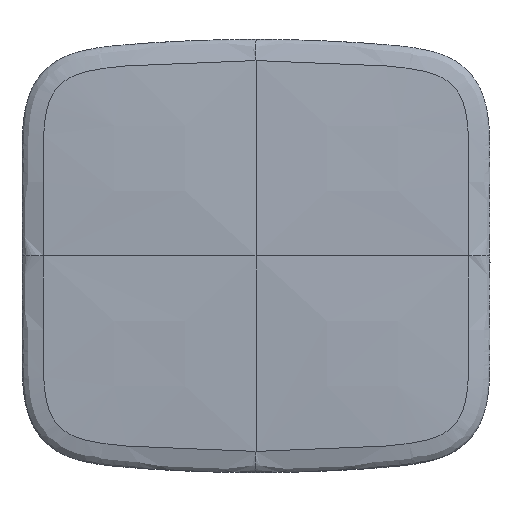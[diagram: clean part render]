
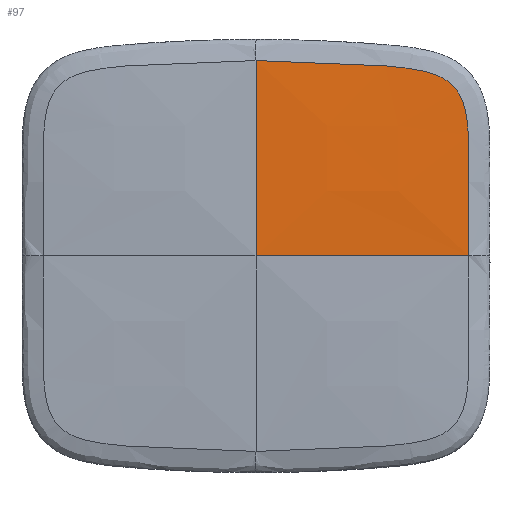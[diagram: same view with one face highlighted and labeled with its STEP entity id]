
A CAD part, top view. The second image highlights one B-rep face of the part: STEP entity #97.
In plain terms, the highlighted free-form (B-spline) face has degree [3, 3] with [4, 4] control points.
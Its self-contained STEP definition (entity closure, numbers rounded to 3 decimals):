
#97=ADVANCED_FACE('',(#179),#1252,.T.);
#179=FACE_OUTER_BOUND('',#261,.T.);
#261=EDGE_LOOP('',(#363,#364,#365));
#363=ORIENTED_EDGE('',*,*,#729,.F.);
#364=ORIENTED_EDGE('',*,*,#712,.F.);
#365=ORIENTED_EDGE('',*,*,#730,.F.);
#712=EDGE_CURVE('',#1084,#1082,#912,.T.);
#729=EDGE_CURVE('',#1082,#1093,#929,.T.);
#730=EDGE_CURVE('',#1093,#1084,#930,.T.);
#912=B_SPLINE_CURVE_WITH_KNOTS('',3,(#2740,#2741,#2742,#2743),
 .UNSPECIFIED.,.F.,.F.,(4,4),(-515.,-270.),
 .UNSPECIFIED.);
#929=B_SPLINE_CURVE_WITH_KNOTS('',3,(#2921,#2922,#2923,#2924),
 .UNSPECIFIED.,.F.,.F.,(4,4),(-250.,-25.),.UNSPECIFIED.);
#930=B_SPLINE_CURVE_WITH_KNOTS('',3,(#2925,#2926,#2927,#2928,#2929,#2930,
#2931,#2932,#2933,#2934,#2935,#2936,#2937,#2938,#2939,#2940,#2941,#2942,
#2943,#2944,#2945,#2946,#2947,#2948,#2949,#2950),.UNSPECIFIED.,.F.,.F.,
(4,1,1,1,2,1,1,1,2,2,2,1,1,1,2,1,1,1,4),(0.,135.824,149.847,
163.871,177.894,197.119,205.94,214.76,
223.581,241.222,258.863,267.683,276.504,
285.324,308.167,323.999,339.831,355.662,
449.839),.UNSPECIFIED.);
#1082=VERTEX_POINT('',#2722);
#1084=VERTEX_POINT('',#2724);
#1093=VERTEX_POINT('',#2733);
#1252=B_SPLINE_SURFACE_WITH_KNOTS('',3,3,((#2096,#2097,#2098,#2099),(#2100,
#2101,#2102,#2103),(#2104,#2105,#2106,#2107),(#2108,#2109,#2110,#2111)),
 .UNSPECIFIED.,.F.,.F.,.F.,(4,4),(4,4),(0.,250.),(270.,540.),
 .UNSPECIFIED.);
#2096=CARTESIAN_POINT('',(0.,250.,386.));
#2097=CARTESIAN_POINT('',(90.,250.,386.));
#2098=CARTESIAN_POINT('',(180.,250.,386.));
#2099=CARTESIAN_POINT('',(270.,250.,386.));
#2100=CARTESIAN_POINT('',(0.,166.667,393.));
#2101=CARTESIAN_POINT('',(90.,166.667,393.));
#2102=CARTESIAN_POINT('',(180.,166.667,393.));
#2103=CARTESIAN_POINT('',(270.,166.667,386.));
#2104=CARTESIAN_POINT('',(0.,83.333,395.));
#2105=CARTESIAN_POINT('',(90.,83.333,395.));
#2106=CARTESIAN_POINT('',(180.,83.333,393.));
#2107=CARTESIAN_POINT('',(270.,83.333,386.));
#2108=CARTESIAN_POINT('',(0.,0.,395.));
#2109=CARTESIAN_POINT('',(90.,0.,395.));
#2110=CARTESIAN_POINT('',(180.,0.,393.));
#2111=CARTESIAN_POINT('',(270.,0.,386.));
#2722=CARTESIAN_POINT('',(0.,0.,395.));
#2724=CARTESIAN_POINT('',(245.,0.,387.818));
#2733=CARTESIAN_POINT('',(0.,225.,387.953));
#2740=CARTESIAN_POINT('',(245.,0.,387.818));
#2741=CARTESIAN_POINT('',(163.333,0.,393.353));
#2742=CARTESIAN_POINT('',(81.667,0.,395.));
#2743=CARTESIAN_POINT('',(0.,0.,395.));
#2921=CARTESIAN_POINT('',(0.,0.,395.));
#2922=CARTESIAN_POINT('',(0.,75.,395.));
#2923=CARTESIAN_POINT('',(0.,150.,393.38));
#2924=CARTESIAN_POINT('',(0.,225.,387.953));
#2925=CARTESIAN_POINT('',(0.,225.,387.953));
#2926=CARTESIAN_POINT('',(45.021,225.001,387.951));
#2927=CARTESIAN_POINT('',(94.54,223.144,388.099));
#2928=CARTESIAN_POINT('',(148.87,218.889,387.957));
#2929=CARTESIAN_POINT('',(162.023,217.732,387.899));
#2930=CARTESIAN_POINT('',(170.924,216.727,387.852));
#2931=CARTESIAN_POINT('',(181.41,215.254,387.794));
#2932=CARTESIAN_POINT('',(190.081,213.768,387.744));
#2933=CARTESIAN_POINT('',(201.748,210.507,387.67));
#2934=CARTESIAN_POINT('',(208.352,208.088,387.626));
#2935=CARTESIAN_POINT('',(212.907,205.954,387.594));
#2936=CARTESIAN_POINT('',(219.369,202.416,387.548));
#2937=CARTESIAN_POINT('',(223.419,199.507,387.517));
#2938=CARTESIAN_POINT('',(230.316,192.465,387.467));
#2939=CARTESIAN_POINT('',(233.147,188.354,387.449));
#2940=CARTESIAN_POINT('',(236.439,181.76,387.433));
#2941=CARTESIAN_POINT('',(238.372,177.118,387.426));
#2942=CARTESIAN_POINT('',(240.452,170.391,387.424));
#2943=CARTESIAN_POINT('',(243.235,157.41,387.44));
#2944=CARTESIAN_POINT('',(244.094,147.49,387.474));
#2945=CARTESIAN_POINT('',(244.749,135.189,387.527));
#2946=CARTESIAN_POINT('',(244.994,125.063,387.576));
#2947=CARTESIAN_POINT('',(245.009,110.185,387.649));
#2948=CARTESIAN_POINT('',(244.994,67.96,387.811));
#2949=CARTESIAN_POINT('',(245.002,31.427,387.818));
#2950=CARTESIAN_POINT('',(245.,0.,387.818));
